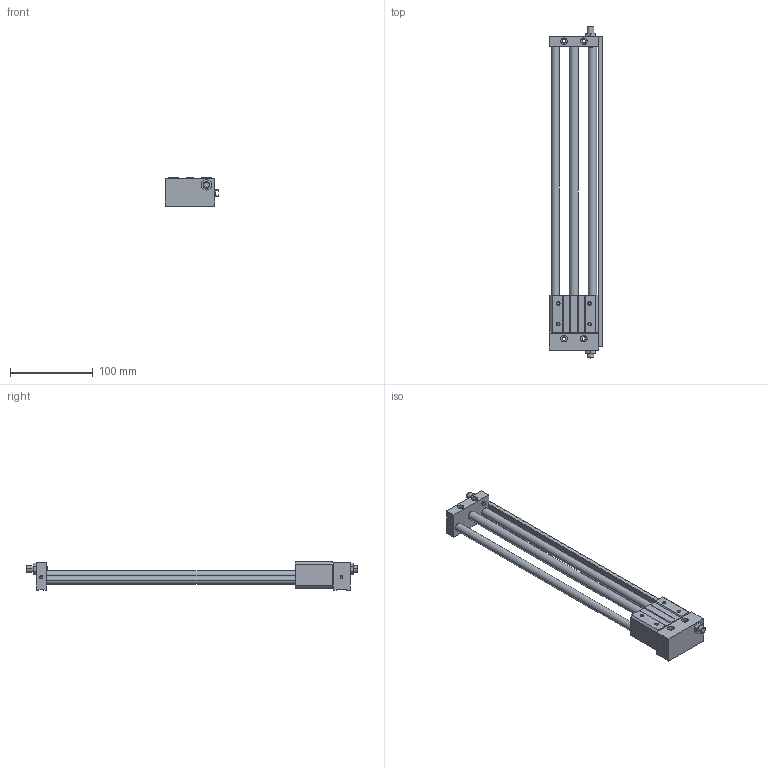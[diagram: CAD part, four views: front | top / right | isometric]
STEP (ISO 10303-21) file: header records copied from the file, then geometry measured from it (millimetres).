
FILE_DESCRIPTION((''),'2;1');
FILE_NAME('C:\Documents and Settings\Administrator\桌面\GYS\GYS10\GYSR10X300.stp','2012-03-05T10:10:54',('Administrator'),(''),'Autodesk Inventor 8','Autodesk Inventor 8','');
FILE_SCHEMA(('AUTOMOTIVE_DESIGN { 1 0 10303 214 1 1 1 1 }'));
Length unit declared in the file: millimetre
Products named in the file (3): GYSR10X300; GYS10X300; GYS10160X300
Assembly tree (2 placements, depth 2):
  GYSR10X300
    GYS10X300
    GYS10160X300
Bounding box: 65 x 402 x 34 mm (x, y, z)
Volume: 226430.1 mm3; surface area: 71993.4 mm2
Topology: 2 solids, 2 shells, 193 faces, 462 edges, 296 vertices
Faces by surface type: plane 97, cylinder 58, cone 32, bspline 6
Entity records: 5756 total; most frequent: CARTESIAN_POINT 1030, DIRECTION 1006, ORIENTED_EDGE 924, EDGE_CURVE 462, AXIS2_PLACEMENT_3D 352, VECTOR 302, LINE 302, VERTEX_POINT 296
